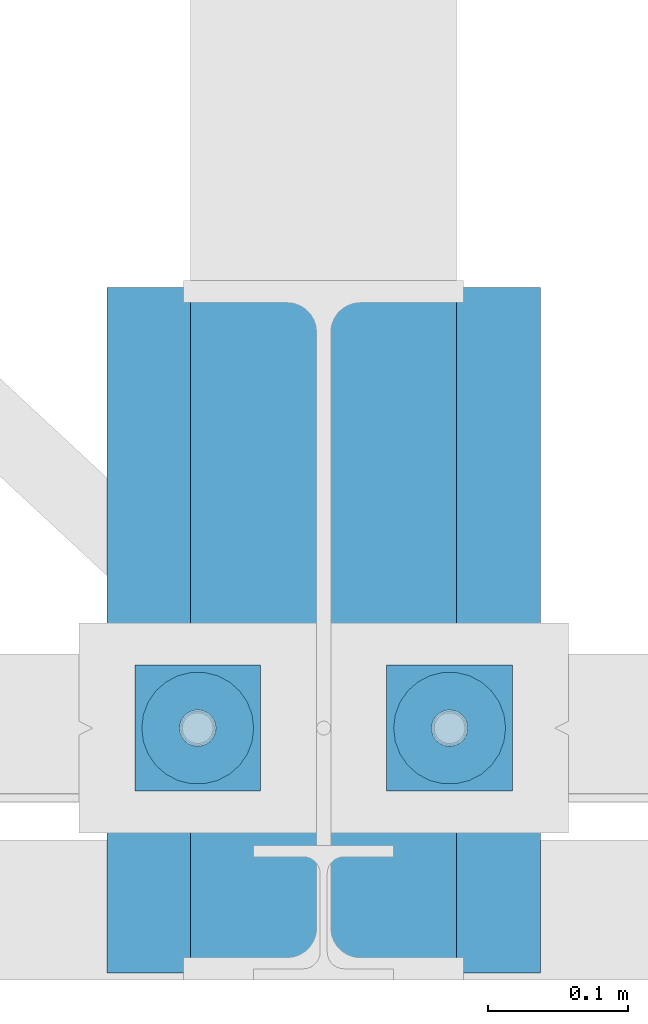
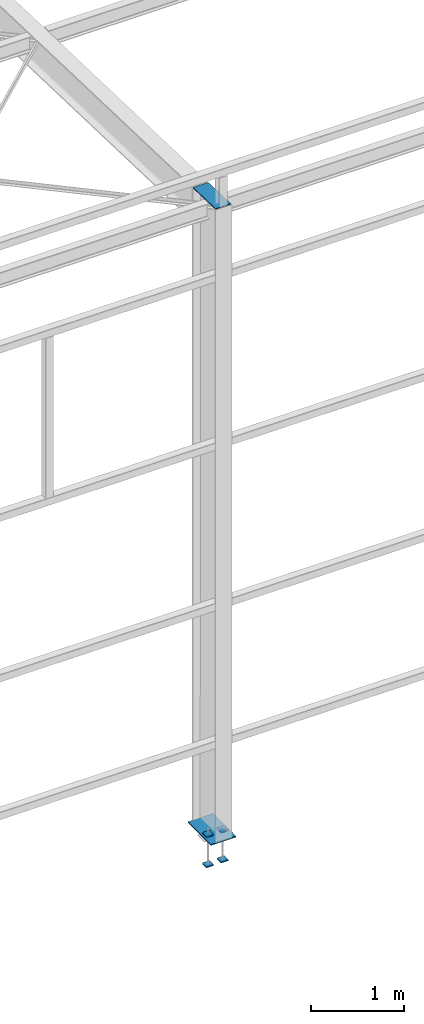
# One storey, part 62 of 123: 6 discrete accessories, 3 mechanical fasteners, 2 elements without a shape of their own.
"""IFC2X3 building model written with IfcOpenShell, lengths in millimetres."""

import ifcopenshell
import ifcopenshell.guid

model = None  # the IFC model being written
_history = None  # IfcOwnerHistory: only IFC2X3 demands one
_inside = {}  # id of a spatial element -> (the spatial element, [elements in it])
_under = {}  # id of a project, library or spatial element -> (it, [spatial elements below it])
_declared = {}  # id of a project -> (the project, [libraries it declares])
_typed = {}  # id of a type object -> (the type object, [elements of that type])
_made_of = {}  # id of a material, layer set ... -> (it, [elements and type objects made of it])


def new_model(schema):
    """Start an empty IFC model of exactly this schema.

    Asked for "IFC4X3", IfcOpenShell would pick the latest addendum, in which some entities
    have other attributes; the version numbers below select the first issue.
    IFC2X3 requires an IfcOwnerHistory on every rooted entity: one is made here for all.
    """
    global model, _history
    if schema == "IFC4X3":
        model = ifcopenshell.file(schema_version=(4, 3, 0, 0))
    else:
        model = ifcopenshell.file(schema=schema)
    _inside.clear()
    _under.clear()
    _declared.clear()
    _typed.clear()
    _made_of.clear()
    _history = None
    if model.schema == "IFC2X3":
        org = make("IfcOrganization", Name="unknown")
        user = make(
            "IfcPersonAndOrganization",
            ThePerson=make("IfcPerson", FamilyName="unknown"),
            TheOrganization=org,
        )
        app = make(
            "IfcApplication",
            ApplicationDeveloper=org,
            Version="unknown",
            ApplicationFullName="unknown",
            ApplicationIdentifier="unknown",
        )
        _history = make(
            "IfcOwnerHistory",
            OwningUser=user,
            OwningApplication=app,
            ChangeAction="ADDED",
            CreationDate=0,
        )
    return model


def make(cls, **values):
    """One entity of the class cls with the attributes given. An attribute that is None is left unset."""
    return model.create_entity(
        cls, **{name: value for name, value in values.items() if value is not None}
    )


def rooted(cls, **values):
    """An entity with a GlobalId (a new one), such as an element, a storey or a relation."""
    return make(cls, GlobalId=ifcopenshell.guid.new(), OwnerHistory=_history, **values)


def si_unit(unit_type, name, prefix=None):
    """IfcSIUnit, for example si_unit("LENGTHUNIT", "METRE", prefix="MILLI")."""
    return make("IfcSIUnit", UnitType=unit_type, Prefix=prefix, Name=name)


def assignment(units):
    """IfcUnitAssignment: the units of a project."""
    return None if units is None else make("IfcUnitAssignment", Units=units)


def point(xyz):
    """IfcCartesianPoint."""
    return None if xyz is None else make("IfcCartesianPoint", Coordinates=xyz)


def direction(xyz):
    """IfcDirection."""
    return None if xyz is None else make("IfcDirection", DirectionRatios=xyz)


def frame(location, z_axis=None, x_axis=None):
    """IfcAxis2Placement3D, a coordinate frame: its origin and axes. An axis left out is left unset."""
    return make(
        "IfcAxis2Placement3D",
        Location=point(location),
        Axis=direction(z_axis),
        RefDirection=direction(x_axis),
    )


def frame_2d(location, x_axis=None):
    """IfcAxis2Placement2D, a coordinate frame in the plane: its origin and x axis."""
    return make(
        "IfcAxis2Placement2D", Location=point(location), RefDirection=direction(x_axis)
    )


def origin_with_axes():
    """The frame at (0, 0, 0) with the z axis (0, 0, 1) and the x axis (1, 0, 0) written out."""
    return frame((0.0, 0.0, 0.0), z_axis=(0.0, 0.0, 1.0), x_axis=(1.0, 0.0, 0.0))


def origin_2d_with_axis():
    """The frame at (0, 0) in the plane with the x axis (1, 0) written out."""
    return frame_2d((0.0, 0.0), x_axis=(1.0, 0.0))


def place(relative_to, where):
    """IfcLocalPlacement: puts the frame where relative to a parent placement (None: the world)."""
    return make(
        "IfcLocalPlacement", PlacementRelTo=relative_to, RelativePlacement=where
    )


def context(
    kind, dimensions, precision=None, world=None, true_north=None, identifier=None
):
    """IfcGeometricRepresentationContext, for example the 3D "Model" context."""
    return make(
        "IfcGeometricRepresentationContext",
        ContextIdentifier=identifier,
        ContextType=kind,
        CoordinateSpaceDimension=dimensions,
        Precision=precision,
        WorldCoordinateSystem=world,
        TrueNorth=true_north,
    )


def subcontext(parent, identifier, kind, view, scale=None):
    """IfcGeometricRepresentationSubContext, for example "Body" below "Model"."""
    return make(
        "IfcGeometricRepresentationSubContext",
        ContextIdentifier=identifier,
        ContextType=kind,
        ParentContext=parent,
        TargetScale=scale,
        TargetView=view,
    )


def project(units=None, contexts=None):
    """IfcProject with its units and contexts."""
    return rooted(
        "IfcProject",
        Name="project",
        RepresentationContexts=contexts,
        UnitsInContext=assignment(units),
    )


def spatial(cls, under=None, at=None, **own):
    """A site, building, storey or space (cls), placed at a placement, below another one or the project."""
    s = rooted(cls, ObjectPlacement=at, **own)
    if under is not None:
        _under.setdefault(under.id(), (under, []))[1].append(s)
    return s


def polyline(points):
    """IfcPolyline through the points."""
    return make("IfcPolyline", Points=[point(p) for p in points])


def profile(cls, at=None, kind="AREA", **sizes):
    """A parametric profile (cls). Its sizes go by their IFC names, for example OverallWidth=200.0."""
    return make(cls, ProfileType=kind, Position=at, **sizes)


def circle(**sizes):
    """IfcCircleProfileDef."""
    return profile("IfcCircleProfileDef", **sizes)


def outline(outer, holes=None, kind="AREA"):
    """IfcArbitraryClosedProfileDef: a profile drawn as a closed curve; with holes, ...WithVoids."""
    if holes is None:
        return make("IfcArbitraryClosedProfileDef", ProfileType=kind, OuterCurve=outer)
    return make(
        "IfcArbitraryProfileDefWithVoids",
        ProfileType=kind,
        OuterCurve=outer,
        InnerCurves=holes,
    )


def extrude(swept, where, along, depth):
    """IfcExtrudedAreaSolid: the profile swept, set in the frame where, extruded along a direction by depth."""
    return make(
        "IfcExtrudedAreaSolid",
        SweptArea=swept,
        Position=where,
        ExtrudedDirection=direction(along),
        Depth=depth,
    )


def shape(context_of_items, identifier, shape_type, items):
    """IfcShapeRepresentation: the items that make up one representation, for example the "Body"."""
    return make(
        "IfcShapeRepresentation",
        ContextOfItems=context_of_items,
        RepresentationIdentifier=identifier,
        RepresentationType=shape_type,
        Items=items,
    )


def source(mapping_origin, context_of_items, identifier, shape_type, items):
    """IfcRepresentationMap: a shape defined once, which mapped items show again and again."""
    return make(
        "IfcRepresentationMap",
        MappingOrigin=mapping_origin,
        MappedRepresentation=shape(context_of_items, identifier, shape_type, items),
    )


def transform(
    local_origin,
    x_axis=None,
    y_axis=None,
    z_axis=None,
    scale=None,
    scale2=None,
    scale3=None,
    uniform=True,
):
    """IfcCartesianTransformationOperator3D, or its non-uniform kind. x_axis, y_axis, z_axis: its Axis1, 2, 3."""
    if uniform:
        return make(
            "IfcCartesianTransformationOperator3D",
            Axis1=direction(x_axis),
            Axis2=direction(y_axis),
            LocalOrigin=point(local_origin),
            Scale=scale,
            Axis3=direction(z_axis),
        )
    return make(
        "IfcCartesianTransformationOperator3DnonUniform",
        Axis1=direction(x_axis),
        Axis2=direction(y_axis),
        LocalOrigin=point(local_origin),
        Scale=scale,
        Axis3=direction(z_axis),
        Scale2=scale2,
        Scale3=scale3,
    )


def mapped(mapping_source, mapping_target):
    """IfcMappedItem: shows the shape of a source again, moved by a transform."""
    return make(
        "IfcMappedItem", MappingSource=mapping_source, MappingTarget=mapping_target
    )


def material(Name=None, Category=None):
    """IfcMaterial."""
    return make("IfcMaterial", Name=Name, Category=Category)


def made_of(thing, what):
    """Note that an element or type object is made of a material, layer set ...; save() writes the relation."""
    if what is not None:
        _made_of.setdefault(what.id(), (what, []))[1].append(thing)
    return thing


def type_object(cls, material=None, **own):
    """A type object (cls), such as IfcWallType, which elements share."""
    return made_of(rooted(cls, **own), material)


def element(
    cls,
    number,
    at=None,
    inside=None,
    cuts=None,
    type_object=None,
    material=None,
    context=None,
    identifier="Body",
    shape_type=None,
    held_by="IfcProductDefinitionShape",
    body=None,
    shapes=None,
    **own,
):
    """One element of the class cls, such as IfcWall. Its Tag is "e" and its number.

    at: its placement. inside: the storey or other place that contains it. cuts: it is an
    opening in that element (IfcRelVoidsElement). A single representation is given by context,
    identifier, shape_type and body (its items); several are given by shapes. held_by: the class
    of the entity that holds the representations. save() writes the other relations.
    """
    e = rooted(cls, Tag="e%d" % number, ObjectPlacement=at, **own)
    if body is not None:
        shapes = [shape(context, identifier, shape_type, body)]
    if shapes is not None:
        e.Representation = make(held_by, Representations=shapes)
    if inside is not None:
        _inside.setdefault(inside.id(), (inside, []))[1].append(e)
    if cuts is not None:
        rooted(
            "IfcRelVoidsElement", RelatingBuildingElement=cuts, RelatedOpeningElement=e
        )
    if type_object is not None:
        _typed.setdefault(type_object.id(), (type_object, []))[1].append(e)
    return made_of(e, material)


def aggregate(whole, parts):
    """IfcRelAggregates: a whole, such as a stair, and the parts it consists of."""
    return rooted("IfcRelAggregates", RelatingObject=whole, RelatedObjects=parts)


def save(model, path):
    """Write the relations noted so far, then the file.

    IfcRelAggregates (storeys below a building ...), IfcRelContainedInSpatialStructure (elements
    in a storey), IfcRelDefinesByType, IfcRelAssociatesMaterial and IfcRelDeclares: one each for
    every whole, place, type object, material and project.
    """
    for whole, parts in _under.values():
        aggregate(whole, parts)
    for where, things in _inside.values():
        rooted(
            "IfcRelContainedInSpatialStructure",
            RelatedElements=things,
            RelatingStructure=where,
        )
    for kind, things in _typed.values():
        rooted("IfcRelDefinesByType", RelatedObjects=things, RelatingType=kind)
    for what, things in _made_of.values():
        rooted("IfcRelAssociatesMaterial", RelatedObjects=things, RelatingMaterial=what)
    for by, libraries in _declared.values():
        rooted("IfcRelDeclares", RelatingContext=by, RelatedDefinitions=libraries)
    model.write(path)


model = new_model("IFC2X3")

# Units and contexts
model_context = context("Model", 3, precision=1e-05, world=origin_with_axes())
body_context = subcontext(model_context, "Body", "Model", "MODEL_VIEW")
ifc_project = project(units=[si_unit("LENGTHUNIT", "METRE", prefix="MILLI"), si_unit("AREAUNIT", "SQUARE_METRE"), si_unit("VOLUMEUNIT", "CUBIC_METRE"), si_unit("MASSUNIT", "GRAM", prefix="KILO"), si_unit("TIMEUNIT", "SECOND"), si_unit("PLANEANGLEUNIT", "RADIAN"), si_unit("SOLIDANGLEUNIT", "STERADIAN"), si_unit("THERMODYNAMICTEMPERATUREUNIT", "DEGREE_CELSIUS"), si_unit("LUMINOUSINTENSITYUNIT", "LUMEN")], contexts=[model_context])

# Site, building, storey
site_placement = place(None, origin_with_axes())
site = spatial("IfcSite", under=ifc_project, at=site_placement, Name="Undefined", CompositionType="ELEMENT")
building_placement = place(site_placement, origin_with_axes())
building = spatial("IfcBuilding", under=site, at=building_placement, Name="Undefined", CompositionType="ELEMENT")
storey_placement = place(building_placement, origin_with_axes())
storey = spatial("IfcBuildingStorey", under=building, at=storey_placement, Name="Undefined", CompositionType="ELEMENT", Elevation=0.0)

# Assembly, mechanical fasteners, discrete accessories
assembly_1_placement = place(storey_placement, origin_with_axes())
assembly_1 = element("IfcElementAssembly", 1, at=assembly_1_placement, inside=storey, Name="Steel Assembly", AssemblyPlace="NOTDEFINED", PredefinedType="RIGID_FRAME")
ifc_material_1 = material(Name="6.8")
discrete_accessory_type_1 = type_object("IfcDiscreteAccessoryType", Name="Bolt assembly")
shared_shape_1 = source(origin_with_axes(), body_context, "Body", "SweptSolid", [
    extrude(circle(Radius=40.0, at=origin_2d_with_axis()), frame((0.0, -15.0, 0.0), z_axis=(0.0, 1.0, 0.0), x_axis=(1.0, 0.0, 0.0)), (0.0, 0.0, 1.0), 15.1),
])
mechanical_fastener_1_placement = place(assembly_1_placement, frame((4089.99715044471, 0.0, -250.0), z_axis=(0.0, 1.0, 0.0), x_axis=(1.0, 0.0, 0.0)))
mechanical_fastener_1 = element("IfcMechanicalFastener", 2, at=mechanical_fastener_1_placement, type_object=discrete_accessory_type_1, material=ifc_material_1, Name="Bolt assembly", NominalDiameter=30.0, NominalLength=15.0, context=body_context, shape_type="MappedRepresentation", body=[
    mapped(shared_shape_1, transform((0.0, 0.0, 0.0))),
])
mechanical_fastener_2_placement = place(assembly_1_placement, frame((4269.99715044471, 0.0, -250.0), z_axis=(0.0, -1.0, 0.0), x_axis=(-1.0, 0.0, 0.0)))
mechanical_fastener_2 = element("IfcMechanicalFastener", 3, at=mechanical_fastener_2_placement, type_object=discrete_accessory_type_1, material=ifc_material_1, Name="Bolt assembly", NominalDiameter=30.0, NominalLength=15.0, context=body_context, shape_type="MappedRepresentation", body=[
    mapped(shared_shape_1, transform((0.0, 0.0, 0.0))),
])
ifc_material_2 = material(Name="STEEL/S235-E24")
discrete_accessory_type_2 = type_object("IfcDiscreteAccessoryType", Name="COIFFE")
discrete_accessory_1_placement = place(assembly_1_placement, frame((4180.0000000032, 312.157053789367, 8035.18760098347), z_axis=(0.0, -0.0314107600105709, -0.999506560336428), x_axis=(0.0, -0.999506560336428, 0.0314107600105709)))
discrete_accessory_1 = element("IfcDiscreteAccessory", 4, at=discrete_accessory_1_placement, type_object=discrete_accessory_type_2, material=ifc_material_2, Name="COIFFE", ObjectType="PL10*190", context=body_context, shape_type="SweptSolid", body=[
    extrude(outline(polyline([(484.238942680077, 95.0), (484.238942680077, -95.0), (0.0, -95.0), (0.0, 95.0), (484.238942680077, 95.0)])), frame((0.0, 0.0, -5.0), z_axis=(0.0, 0.0, 1.0), x_axis=(1.0, 0.0, 0.0)), (0.0, 0.0, 1.0), 10.0),
])
discrete_accessory_type_3 = type_object("IfcDiscreteAccessoryType", Name="PLATINE")
discrete_accessory_2_placement = place(assembly_1_placement, frame((4334.99715044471, 70.0, -242.5), z_axis=(0.0, 0.0, 1.0), x_axis=(-1.0, 0.0, 0.0)))
discrete_accessory_2 = element("IfcDiscreteAccessory", 5, at=discrete_accessory_2_placement, type_object=discrete_accessory_type_3, material=ifc_material_2, Name="PLATINE", ObjectType="PL15*490", context=body_context, shape_type="SweptSolid", body=[
    extrude(outline(polyline([(310.0, 245.0), (310.0, -245.0), (0.0, -245.0), (0.0, 245.0), (310.0, 245.0)])), frame((0.0, 0.0, -7.5), z_axis=(0.0, 0.0, 1.0), x_axis=(1.0, 0.0, 0.0)), (0.0, 0.0, 1.0), 15.0),
])
aggregate(assembly_1, [discrete_accessory_1, discrete_accessory_2, mechanical_fastener_1, mechanical_fastener_2])

# Assembly, mechanical fastener, discrete accessories
assembly_2_placement = place(storey_placement, origin_with_axes())
assembly_2 = element("IfcElementAssembly", 6, at=assembly_2_placement, inside=storey, Name="Steel Assembly", AssemblyPlace="NOTDEFINED", PredefinedType="RIGID_FRAME")
shared_shape_2 = source(origin_with_axes(), body_context, "Body", "SweptSolid", [
    extrude(circle(Radius=13.0, at=origin_2d_with_axis()), frame((0.0, 0.0, 0.0), z_axis=(0.0, 1.0, 0.0), x_axis=(1.0, 0.0, 0.0)), (0.0, 0.0, 1.0), 10.1),
])
mechanical_fastener_3_placement = place(assembly_2_placement, frame((4180.00000007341, 0.0, -250.0), z_axis=(-1.0, 0.0, 0.0), x_axis=(0.0, 1.0, 0.0)))
mechanical_fastener_3 = element("IfcMechanicalFastener", 7, at=mechanical_fastener_3_placement, type_object=discrete_accessory_type_1, material=ifc_material_1, Name="Bolt assembly", NominalDiameter=24.0, NominalLength=10.0, context=body_context, shape_type="MappedRepresentation", body=[
    mapped(shared_shape_2, transform((-4.00177668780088e-11, 0.0, -90.0))),
    mapped(shared_shape_2, transform((4.00177668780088e-11, 0.0, 90.0))),
])
discrete_accessory_type_4 = type_object("IfcDiscreteAccessoryType", Name="PLAQUETTE")
discrete_accessory_3_placement = place(assembly_2_placement, frame((4134.99715044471, -45.0, -227.5), z_axis=(0.0, 0.0, 1.0), x_axis=(0.0, 1.0, 0.0)))
discrete_accessory_3 = element("IfcDiscreteAccessory", 8, at=discrete_accessory_3_placement, type_object=discrete_accessory_type_4, material=ifc_material_2, Name="PLAQUETTE", ObjectType="PL15*90", context=body_context, shape_type="SweptSolid", body=[
    extrude(outline(polyline([(0.0, 0.0), (90.0, 0.0), (90.0, 90.0), (0.0, 90.0), (0.0, 0.0)])), frame((0.0, 0.0, -7.5), z_axis=(0.0, 0.0, 1.0), x_axis=(1.0, 0.0, 0.0)), (0.0, 0.0, 1.0), 15.0),
])
discrete_accessory_4_placement = place(assembly_2_placement, frame((4314.99715044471, -45.0, -227.5), z_axis=(0.0, 0.0, 1.0), x_axis=(0.0, 1.0, 0.0)))
discrete_accessory_4 = element("IfcDiscreteAccessory", 9, at=discrete_accessory_4_placement, type_object=discrete_accessory_type_4, material=ifc_material_2, Name="PLAQUETTE", ObjectType="PL15*90", context=body_context, shape_type="SweptSolid", body=[
    extrude(outline(polyline([(0.0, 0.0), (90.0, 0.0), (90.0, 90.0), (0.0, 90.0), (0.0, 0.0)])), frame((0.0, 0.0, -7.5), z_axis=(0.0, 0.0, 1.0), x_axis=(1.0, 0.0, 0.0)), (0.0, 0.0, 1.0), 15.0),
])
discrete_accessory_5_placement = place(assembly_2_placement, frame((4134.99715044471, -45.0, -622.5), z_axis=(0.0, 0.0, 1.0), x_axis=(0.0, 1.0, 0.0)))
discrete_accessory_5 = element("IfcDiscreteAccessory", 10, at=discrete_accessory_5_placement, type_object=discrete_accessory_type_4, material=ifc_material_2, Name="PLAQUETTE", ObjectType="PL15*90", context=body_context, shape_type="SweptSolid", body=[
    extrude(outline(polyline([(0.0, 0.0), (90.0, 0.0), (90.0, 90.0), (0.0, 90.0), (0.0, 0.0)])), frame((0.0, 0.0, -7.5), z_axis=(0.0, 0.0, 1.0), x_axis=(1.0, 0.0, 0.0)), (0.0, 0.0, 1.0), 15.0),
])
discrete_accessory_6_placement = place(assembly_2_placement, frame((4314.99715044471, -45.0, -622.5), z_axis=(0.0, 0.0, 1.0), x_axis=(0.0, 1.0, 0.0)))
discrete_accessory_6 = element("IfcDiscreteAccessory", 11, at=discrete_accessory_6_placement, type_object=discrete_accessory_type_4, material=ifc_material_2, Name="PLAQUETTE", ObjectType="PL15*90", context=body_context, shape_type="SweptSolid", body=[
    extrude(outline(polyline([(0.0, 0.0), (90.0, 0.0), (90.0, 90.0), (0.0, 90.0), (0.0, 0.0)])), frame((0.0, 0.0, -7.5), z_axis=(0.0, 0.0, 1.0), x_axis=(1.0, 0.0, 0.0)), (0.0, 0.0, 1.0), 15.0),
])
aggregate(assembly_2, [mechanical_fastener_3, discrete_accessory_3, discrete_accessory_4, discrete_accessory_5, discrete_accessory_6])

save(model, "model.ifc")
